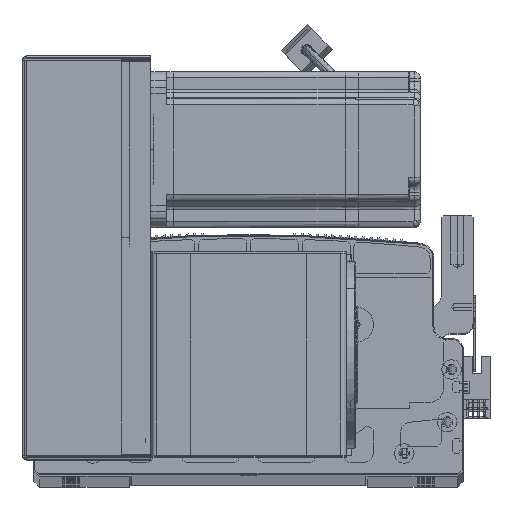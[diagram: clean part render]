
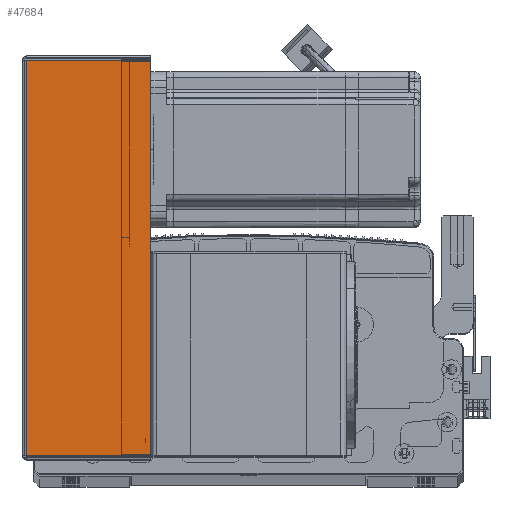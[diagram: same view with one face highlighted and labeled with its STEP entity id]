
A CAD part, top view. The second image highlights one B-rep face of the part: STEP entity #47684.
In plain terms, the highlighted planar face has unit normal (0, 0, 1) as drawn and (0, 1, 0) by its records, which use the part's own axes.
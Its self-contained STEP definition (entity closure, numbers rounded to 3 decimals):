
#1299 = CARTESIAN_POINT ( 'NONE',  ( 0.737, 107.5, 0. ) ) ;
#5679 = LINE ( 'NONE', #6708, #82507 ) ;
#6708 = CARTESIAN_POINT ( 'NONE',  ( 0., 107.5, -203.293 ) ) ;
#8254 = CARTESIAN_POINT ( 'NONE',  ( 0.737, 107.5, -0.707 ) ) ;
#11566 = VECTOR ( 'NONE', #49594, 1000. ) ;
#16415 = FACE_OUTER_BOUND ( 'NONE', #30056, .T. ) ;
#17838 = LINE ( 'NONE', #1299, #86041 ) ;
#18269 = CARTESIAN_POINT ( 'NONE',  ( 64.5, 107.5, -203.293 ) ) ;
#18913 = ORIENTED_EDGE ( 'NONE', *, *, #66827, .T. ) ;
#19480 = VECTOR ( 'NONE', #24089, 1000. ) ;
#21089 = EDGE_CURVE ( 'NONE', #90567, #99312, #5679, .T. ) ;
#24089 = DIRECTION ( 'NONE',  ( 1., 0., 0. ) ) ;
#24149 = DIRECTION ( 'NONE',  ( 0., 0., -1. ) ) ;
#24436 = EDGE_CURVE ( 'NONE', #93260, #29568, #31462, .T. ) ;
#29568 = VERTEX_POINT ( 'NONE', #73377 ) ;
#29946 = DIRECTION ( 'NONE',  ( 0., -1., 0. ) ) ;
#30056 = EDGE_LOOP ( 'NONE', ( #99613, #56860, #18913, #31805 ) ) ;
#31462 = LINE ( 'NONE', #55696, #19480 ) ;
#31805 = ORIENTED_EDGE ( 'NONE', *, *, #21089, .F. ) ;
#33078 = CARTESIAN_POINT ( 'NONE',  ( 0.737, 107.5, -203.293 ) ) ;
#37688 = PLANE ( 'NONE',  #87982 ) ;
#43409 = EDGE_CURVE ( 'NONE', #93260, #90567, #17838, .T. ) ;
#47684 = ADVANCED_FACE ( 'NONE', ( #16415 ), #37688, .F. ) ;
#49594 = DIRECTION ( 'NONE',  ( 0., 0., -1. ) ) ;
#55696 = CARTESIAN_POINT ( 'NONE',  ( 0., 107.5, -0.707 ) ) ;
#56860 = ORIENTED_EDGE ( 'NONE', *, *, #24436, .T. ) ;
#60825 = LINE ( 'NONE', #64053, #11566 ) ;
#64053 = CARTESIAN_POINT ( 'NONE',  ( 64.5, 107.5, -204. ) ) ;
#66827 = EDGE_CURVE ( 'NONE', #29568, #99312, #60825, .T. ) ;
#68118 = DIRECTION ( 'NONE',  ( 1., 0., 0. ) ) ;
#73377 = CARTESIAN_POINT ( 'NONE',  ( 64.5, 107.5, -0.707 ) ) ;
#82507 = VECTOR ( 'NONE', #68118, 1000. ) ;
#86041 = VECTOR ( 'NONE', #24149, 1000. ) ;
#87982 = AXIS2_PLACEMENT_3D ( 'NONE', #91013, #29946, #91342 ) ;
#90567 = VERTEX_POINT ( 'NONE', #33078 ) ;
#91013 = CARTESIAN_POINT ( 'NONE',  ( 0., 107.5, 0. ) ) ;
#91342 = DIRECTION ( 'NONE',  ( 1., 0., 0. ) ) ;
#93260 = VERTEX_POINT ( 'NONE', #8254 ) ;
#99312 = VERTEX_POINT ( 'NONE', #18269 ) ;
#99613 = ORIENTED_EDGE ( 'NONE', *, *, #43409, .F. ) ;
